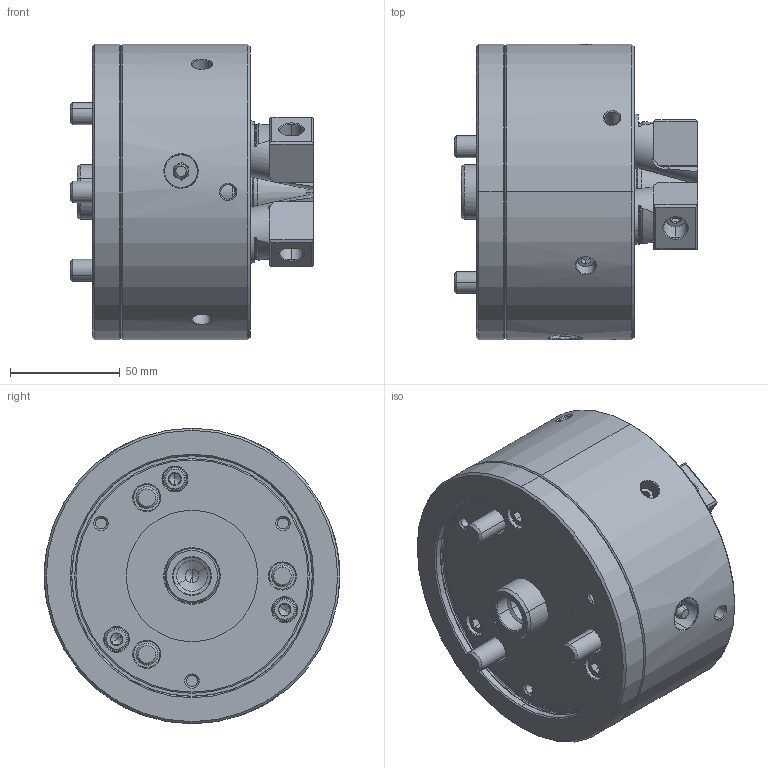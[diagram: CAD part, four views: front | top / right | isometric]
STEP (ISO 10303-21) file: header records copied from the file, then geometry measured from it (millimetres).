
FILE_DESCRIPTION (( 'STEP AP214' ), '1' );
FILE_NAME ('HP_PUE05_TEMPLATE_UC.STEP', '2022-03-22T23:10:03', ( '' ), ( '' ), 'SwSTEP 2.0', 'SolidWorks 2020', '' );
FILE_SCHEMA (( 'AUTOMOTIVE_DESIGN' ));
Length unit declared in the file: millimetre
Products named in the file (1): HP_PUE05_TEMPLATE_UC
Bounding box: 111 x 135 x 135 mm (x, y, z)
Volume: 1008533.3 mm3; surface area: 116548.9 mm2
Topology: 7 solids, 20 shells, 1213 faces, 3013 edges, 1882 vertices
Faces by surface type: plane 484, cone 331, cylinder 251, bspline 124, torus 23
Entity records: 60657 total; most frequent: CARTESIAN_POINT 20233, ORIENTED_EDGE 5866, DIRECTION 5017, EDGE_CURVE 2933, VERTEX_POINT 1882, AXIS2_PLACEMENT_3D 1781, VECTOR 1455, LINE 1455
